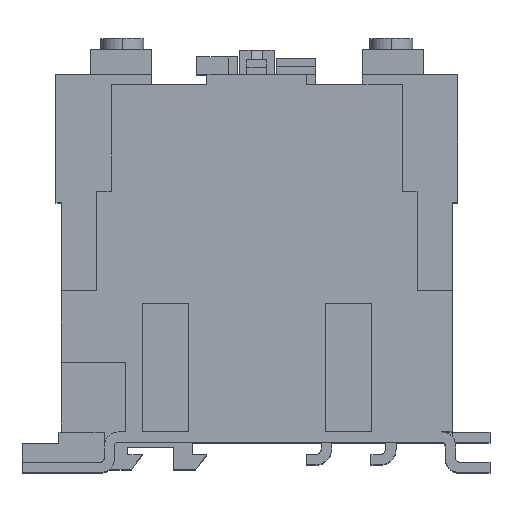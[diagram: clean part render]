
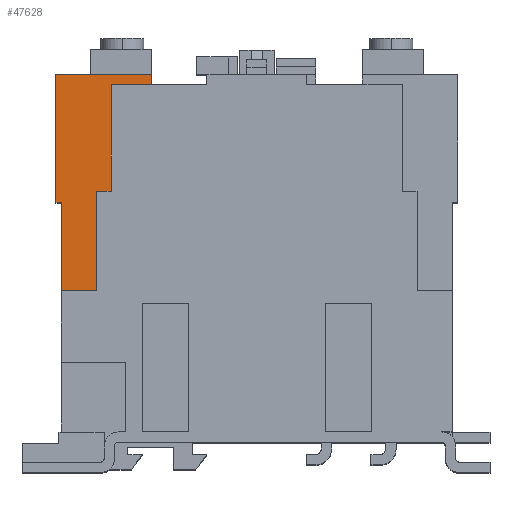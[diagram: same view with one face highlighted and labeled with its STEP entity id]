
A CAD part, top view. The second image highlights one B-rep face of the part: STEP entity #47628.
In plain terms, the highlighted planar face has unit normal (0, 0, 1).
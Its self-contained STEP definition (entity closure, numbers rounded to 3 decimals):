
#230 = EDGE_CURVE ( 'NONE', #49781, #50027, #18052, .T. ) ;
#3209 = CARTESIAN_POINT ( 'NONE',  ( -43.5, 38.3, 63.6 ) ) ;
#3217 = CARTESIAN_POINT ( 'NONE',  ( -43.5, 65.3, 63.6 ) ) ;
#3222 = CARTESIAN_POINT ( 'NONE',  ( -28.65, 97., 63.6 ) ) ;
#3224 = DIRECTION ( 'NONE',  ( 0., -1., 0. ) ) ;
#3225 = DIRECTION ( 'NONE',  ( 1., 0., 0. ) ) ;
#3226 = DIRECTION ( 'NONE',  ( 0., 1., 0. ) ) ;
#3227 = CARTESIAN_POINT ( 'NONE',  ( -39.5, 65.3, 63.6 ) ) ;
#3228 = DIRECTION ( 'NONE',  ( 1., 0., 0. ) ) ;
#5268 = LINE ( 'NONE', #52170, #5273 ) ;
#5273 = VECTOR ( 'NONE', #52178, 1000. ) ;
#5276 = LINE ( 'NONE', #52183, #5278 ) ;
#5278 = VECTOR ( 'NONE', #52179, 1000. ) ;
#9182 = EDGE_LOOP ( 'NONE', ( #44231, #44232, #44234, #44236, #44238, #44240, #44241, #44243, #44245, #44246 ) ) ;
#10832 = EDGE_CURVE ( 'NONE', #50027, #57904, #67539, .T. ) ;
#10833 = EDGE_CURVE ( 'NONE', #49962, #58053, #67535, .T. ) ;
#10834 = EDGE_CURVE ( 'NONE', #58053, #58039, #67541, .T. ) ;
#10835 = EDGE_CURVE ( 'NONE', #58039, #50048, #67545, .T. ) ;
#12192 = EDGE_CURVE ( 'NONE', #57914, #49960, #5268, .T. ) ;
#12197 = EDGE_CURVE ( 'NONE', #49781, #57914, #5276, .T. ) ;
#18052 = LINE ( 'NONE', #59887, #18061 ) ;
#18061 = VECTOR ( 'NONE', #59896, 1000. ) ;
#25192 = CARTESIAN_POINT ( 'NONE',  ( -54.5, 97., 63.6 ) ) ;
#25394 = CARTESIAN_POINT ( 'NONE',  ( -37.341, 94.3, 63.6 ) ) ;
#25415 = CARTESIAN_POINT ( 'NONE',  ( -53., 62.3, 63.6 ) ) ;
#25417 = CARTESIAN_POINT ( 'NONE',  ( -53., 38.3, 63.6 ) ) ;
#25495 = CARTESIAN_POINT ( 'NONE',  ( -28.65, 97., 63.6 ) ) ;
#25523 = CARTESIAN_POINT ( 'NONE',  ( -38.1, 65.3, 63.6 ) ) ;
#26338 = CARTESIAN_POINT ( 'NONE',  ( -38.1, 65.3, 63.6 ) ) ;
#26339 = DIRECTION ( 'NONE',  ( 0.026, 1., 0. ) ) ;
#26523 = CARTESIAN_POINT ( 'NONE',  ( -53., 38.3, 63.6 ) ) ;
#26526 = DIRECTION ( 'NONE',  ( 0., -1., 0. ) ) ;
#27330 = LINE ( 'NONE', #26338, #27333 ) ;
#27333 = VECTOR ( 'NONE', #26339, 1000. ) ;
#27443 = LINE ( 'NONE', #26523, #27446 ) ;
#27446 = VECTOR ( 'NONE', #26526, 1000. ) ;
#28577 = CARTESIAN_POINT ( 'NONE',  ( -54.5, 94.3, 63.6 ) ) ;
#28584 = DIRECTION ( 'NONE',  ( 1., 0., 0. ) ) ;
#43209 = EDGE_CURVE ( 'NONE', #50048, #49943, #27330, .T. ) ;
#43335 = EDGE_CURVE ( 'NONE', #49960, #49962, #27443, .T. ) ;
#44231 = ORIENTED_EDGE ( 'NONE', *, *, #43209, .T. ) ;
#44232 = ORIENTED_EDGE ( 'NONE', *, *, #66718, .T. ) ;
#44234 = ORIENTED_EDGE ( 'NONE', *, *, #10832, .F. ) ;
#44236 = ORIENTED_EDGE ( 'NONE', *, *, #230, .F. ) ;
#44238 = ORIENTED_EDGE ( 'NONE', *, *, #12197, .T. ) ;
#44240 = ORIENTED_EDGE ( 'NONE', *, *, #12192, .T. ) ;
#44241 = ORIENTED_EDGE ( 'NONE', *, *, #43335, .T. ) ;
#44243 = ORIENTED_EDGE ( 'NONE', *, *, #10833, .T. ) ;
#44245 = ORIENTED_EDGE ( 'NONE', *, *, #10834, .T. ) ;
#44246 = ORIENTED_EDGE ( 'NONE', *, *, #10835, .T. ) ;
#46276 = LINE ( 'NONE', #28577, #46279 ) ;
#46279 = VECTOR ( 'NONE', #28584, 1000. ) ;
#47198 = CARTESIAN_POINT ( 'NONE',  ( -28.65, 94.3, 63.6 ) ) ;
#47208 = CARTESIAN_POINT ( 'NONE',  ( -54.5, 62.3, 63.6 ) ) ;
#47333 = CARTESIAN_POINT ( 'NONE',  ( -43.5, 65.3, 63.6 ) ) ;
#47347 = CARTESIAN_POINT ( 'NONE',  ( -43.5, 38.3, 63.6 ) ) ;
#47628 = ADVANCED_FACE ( 'NONE', ( #59405 ), #64647, .F. ) ;
#49781 = VERTEX_POINT ( 'NONE', #25192 ) ;
#49943 = VERTEX_POINT ( 'NONE', #25394 ) ;
#49960 = VERTEX_POINT ( 'NONE', #25415 ) ;
#49962 = VERTEX_POINT ( 'NONE', #25417 ) ;
#50027 = VERTEX_POINT ( 'NONE', #25495 ) ;
#50048 = VERTEX_POINT ( 'NONE', #25523 ) ;
#52170 = CARTESIAN_POINT ( 'NONE',  ( -53., 62.3, 63.6 ) ) ;
#52178 = DIRECTION ( 'NONE',  ( 1., 0., 0. ) ) ;
#52179 = DIRECTION ( 'NONE',  ( 0., -1., 0. ) ) ;
#52183 = CARTESIAN_POINT ( 'NONE',  ( -54.5, 97., 63.6 ) ) ;
#57904 = VERTEX_POINT ( 'NONE', #47198 ) ;
#57914 = VERTEX_POINT ( 'NONE', #47208 ) ;
#58039 = VERTEX_POINT ( 'NONE', #47333 ) ;
#58053 = VERTEX_POINT ( 'NONE', #47347 ) ;
#59405 = FACE_OUTER_BOUND ( 'NONE', #9182, .T. ) ;
#59887 = CARTESIAN_POINT ( 'NONE',  ( -54.5, 97., 63.6 ) ) ;
#59896 = DIRECTION ( 'NONE',  ( 1., 0., 0. ) ) ;
#62568 = AXIS2_PLACEMENT_3D ( 'NONE', #64666, #64667, #64668 ) ;
#64647 = PLANE ( 'NONE',  #62568 ) ;
#64666 = CARTESIAN_POINT ( 'NONE',  ( -54.5, 97., 63.6 ) ) ;
#64667 = DIRECTION ( 'NONE',  ( 0., 0., -1. ) ) ;
#64668 = DIRECTION ( 'NONE',  ( -1., 0., 0. ) ) ;
#66718 = EDGE_CURVE ( 'NONE', #49943, #57904, #46276, .T. ) ;
#67535 = LINE ( 'NONE', #3209, #67544 ) ;
#67539 = LINE ( 'NONE', #3222, #67542 ) ;
#67541 = LINE ( 'NONE', #3217, #67546 ) ;
#67542 = VECTOR ( 'NONE', #3224, 1000. ) ;
#67544 = VECTOR ( 'NONE', #3225, 1000. ) ;
#67545 = LINE ( 'NONE', #3227, #67548 ) ;
#67546 = VECTOR ( 'NONE', #3226, 1000. ) ;
#67548 = VECTOR ( 'NONE', #3228, 1000. ) ;
